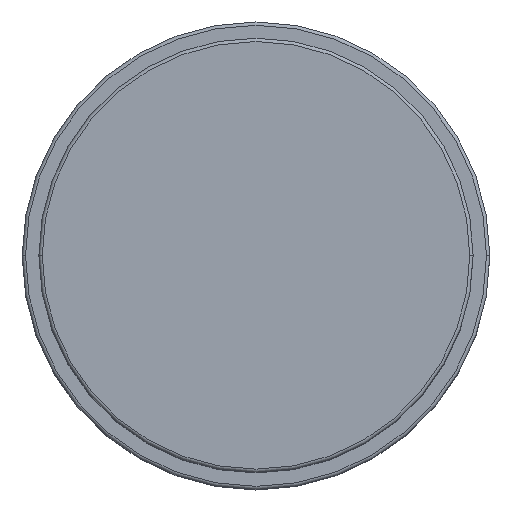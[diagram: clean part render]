
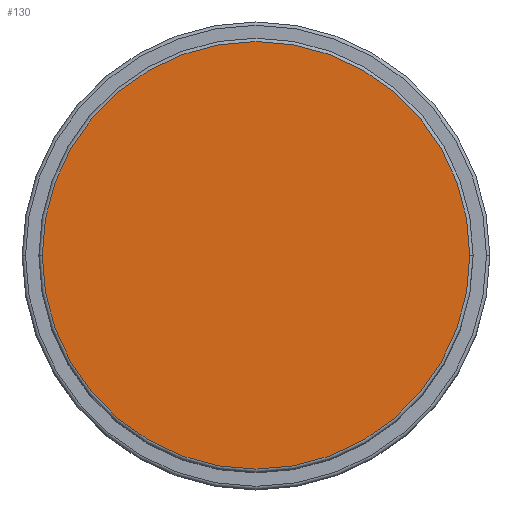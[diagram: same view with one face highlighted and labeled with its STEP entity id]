
A CAD part, top view. The second image highlights one B-rep face of the part: STEP entity #130.
In plain terms, the highlighted planar face has unit normal (0, 0, 1).
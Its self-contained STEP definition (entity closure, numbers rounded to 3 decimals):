
#11 = CARTESIAN_POINT ( 'NONE',  ( -32., 0., 72. ) ) ;
#81 = EDGE_LOOP ( 'NONE', ( #1782, #1029 ) ) ;
#84 = CARTESIAN_POINT ( 'NONE',  ( 0., 0., 72. ) ) ;
#130 = ADVANCED_FACE ( 'NONE', ( #215 ), #411, .T. ) ;
#199 = CARTESIAN_POINT ( 'NONE',  ( 0., 0., 72. ) ) ;
#215 = FACE_OUTER_BOUND ( 'NONE', #81, .T. ) ;
#349 = VERTEX_POINT ( 'NONE', #11 ) ;
#356 = VERTEX_POINT ( 'NONE', #1022 ) ;
#411 = PLANE ( 'NONE',  #1270 ) ;
#492 = DIRECTION ( 'NONE',  ( 0., 0., 1. ) ) ;
#519 = EDGE_CURVE ( 'NONE', #356, #349, #1314, .T. ) ;
#531 = DIRECTION ( 'NONE',  ( 0., 0., 1. ) ) ;
#753 = DIRECTION ( 'NONE',  ( 1., 0., 0. ) ) ;
#802 = DIRECTION ( 'NONE',  ( 1., 0., 0. ) ) ;
#1022 = CARTESIAN_POINT ( 'NONE',  ( 32., 0., 72. ) ) ;
#1029 = ORIENTED_EDGE ( 'NONE', *, *, #1797, .T. ) ;
#1270 = AXIS2_PLACEMENT_3D ( 'NONE', #1347, #531, #1363 ) ;
#1314 = CIRCLE ( 'NONE', #1513, 32. ) ;
#1347 = CARTESIAN_POINT ( 'NONE',  ( 0., 0., 72. ) ) ;
#1363 = DIRECTION ( 'NONE',  ( 1., 0., 0. ) ) ;
#1500 = CIRCLE ( 'NONE', #1619, 32. ) ;
#1513 = AXIS2_PLACEMENT_3D ( 'NONE', #199, #492, #753 ) ;
#1619 = AXIS2_PLACEMENT_3D ( 'NONE', #84, #1777, #802 ) ;
#1777 = DIRECTION ( 'NONE',  ( 0., 0., 1. ) ) ;
#1782 = ORIENTED_EDGE ( 'NONE', *, *, #519, .T. ) ;
#1797 = EDGE_CURVE ( 'NONE', #349, #356, #1500, .T. ) ;
